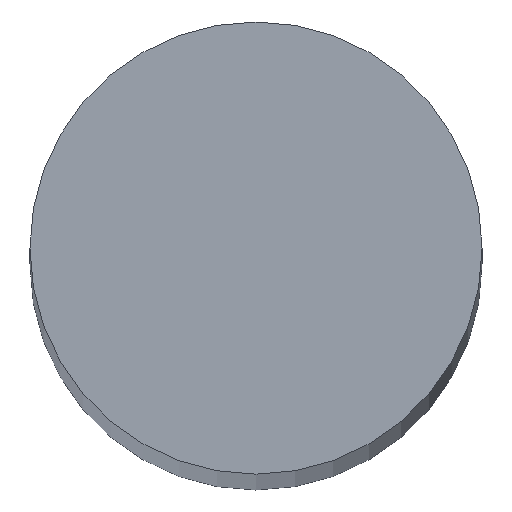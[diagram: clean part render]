
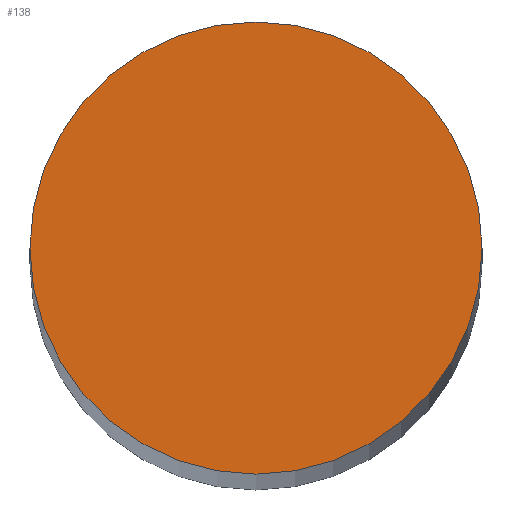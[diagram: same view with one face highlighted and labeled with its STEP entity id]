
A CAD part, top view. The second image highlights one B-rep face of the part: STEP entity #138.
In plain terms, the highlighted planar face has unit normal (0, 0, 1).
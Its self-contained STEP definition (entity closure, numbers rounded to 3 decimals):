
#3 = VERTEX_POINT ( 'NONE', #4 ) ;
#4 = CARTESIAN_POINT ( 'NONE',  ( 6., 0., 120.5 ) ) ;
#6 = CARTESIAN_POINT ( 'NONE',  ( -6., 0., 120.5 ) ) ;
#9 = VERTEX_POINT ( 'NONE', #6 ) ;
#24 = CARTESIAN_POINT ( 'NONE',  ( 0., 0., 120.5 ) ) ;
#25 = DIRECTION ( 'NONE',  ( 0., 0., 1. ) ) ;
#26 = DIRECTION ( 'NONE',  ( 1., 0., 0. ) ) ;
#27 = CARTESIAN_POINT ( 'NONE',  ( 0., 0., 120.5 ) ) ;
#29 = DIRECTION ( 'NONE',  ( 0., 0., 1. ) ) ;
#30 = DIRECTION ( 'NONE',  ( 1., 0., 0. ) ) ;
#39 = CARTESIAN_POINT ( 'NONE',  ( 0., 0., 120.5 ) ) ;
#40 = PLANE ( 'NONE',  #130 ) ;
#42 = DIRECTION ( 'NONE',  ( 0., 0., 1. ) ) ;
#43 = DIRECTION ( 'NONE',  ( 1., 0., 0. ) ) ;
#74 = EDGE_LOOP ( 'NONE', ( #85, #82 ) ) ;
#82 = ORIENTED_EDGE ( 'NONE', *, *, #124, .T. ) ;
#85 = ORIENTED_EDGE ( 'NONE', *, *, #123, .T. ) ;
#99 = CIRCLE ( 'NONE', #115, 6. ) ;
#101 = CIRCLE ( 'NONE', #136, 6. ) ;
#105 = FACE_OUTER_BOUND ( 'NONE', #74, .T. ) ;
#115 = AXIS2_PLACEMENT_3D ( 'NONE', #24, #25, #26 ) ;
#123 = EDGE_CURVE ( 'NONE', #9, #3, #99, .T. ) ;
#124 = EDGE_CURVE ( 'NONE', #3, #9, #101, .T. ) ;
#130 = AXIS2_PLACEMENT_3D ( 'NONE', #39, #42, #43 ) ;
#136 = AXIS2_PLACEMENT_3D ( 'NONE', #27, #29, #30 ) ;
#138 = ADVANCED_FACE ( 'NONE', ( #105 ), #40, .T. ) ;
